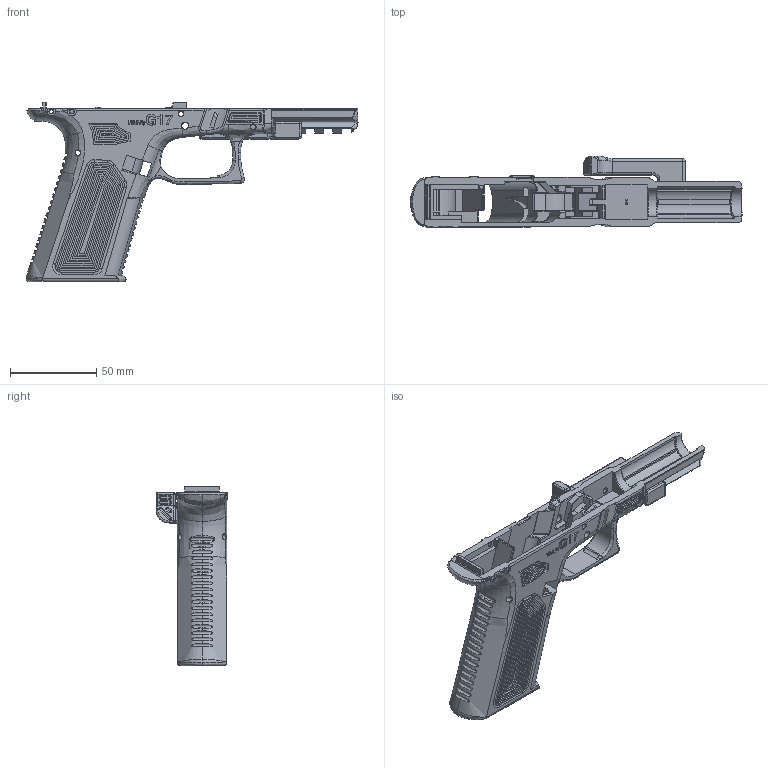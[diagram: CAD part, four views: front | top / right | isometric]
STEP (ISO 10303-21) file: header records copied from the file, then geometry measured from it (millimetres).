
FILE_DESCRIPTION(/* description */ (''),/* implementation_level */ '2;1');
FILE_NAME(/* name */ 'G:/Developer/Repos/F17_FMDA_Vinh/f17-vinh_v1.step',/* time_stamp */ '2020-04-10T04:49:14-04:00',/* author */ (''),/* organization */ (''),/* preprocessor_version */ 'ST-DEVELOPER v18',/* originating_system */ 'Autodesk Translation Framework v8.12.0.6',/* authorisation */ '');
FILE_SCHEMA (('AUTOMOTIVE_DESIGN { 1 0 10303 214 3 1 1 }'));
Products named in the file (3): f17_plainjane; mod10; Thumb Rest
Assembly tree (2 placements, depth 2):
  f17_plainjane
    mod10
    Thumb Rest
Bounding box: 192.61 x 41.68 x 104.43 mm (x, y, z)
Volume: 83325.6 mm3; surface area: 57833.7 mm2
Topology: 3 solids, 3 shells, 1533 faces, 4259 edges, 2756 vertices
Faces by surface type: plane 619, bspline 405, cylinder 389, torus 49, cone 39, sphere 32
Full cylindrical faces by diameter (mm): 2.25 x4, 2.3 x4, 3 x6, 3.091 x27, 4 x30, 7.25 x1
Entity records: 95795 total; most frequent: CARTESIAN_POINT 59517, ORIENTED_EDGE 8460, DIRECTION 6314, EDGE_CURVE 4230, VERTEX_POINT 2756, AXIS2_PLACEMENT_3D 2116, LINE 2082, VECTOR 2082
